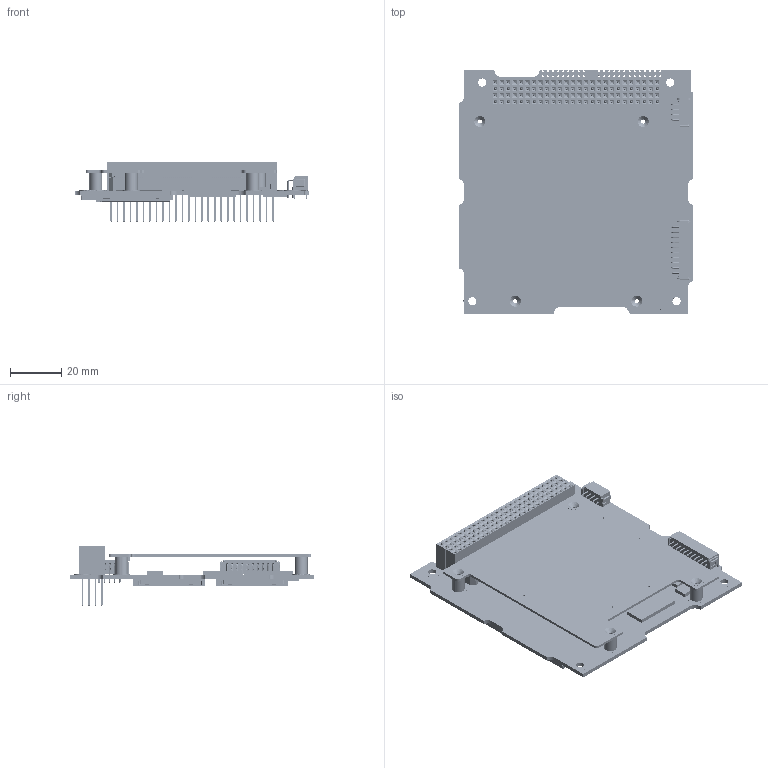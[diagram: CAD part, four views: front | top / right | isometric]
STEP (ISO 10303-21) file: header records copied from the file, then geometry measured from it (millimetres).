
FILE_DESCRIPTION((''),'2;1');
FILE_NAME('ISIS_IOBC_REVC_ASM','2017-05-12T',('jmig'),(''),'PRO/ENGINEER BY PARAMETRIC TECHNOLOGY CORPORATION, 2015110','PRO/ENGINEER BY PARAMETRIC TECHNOLOGY CORPORATION, 2015110','');
FILE_SCHEMA(('AUTOMOTIVE_DESIGN { 1 0 10303 214 1 1 1 1 }'));
Products named in the file (8): IOBC_MOTHERBOARD; ISIS_IOBC_DAUGHTERBOARD_ASM; SAMTEC-ESQ-126-39-G-D; SAMTEC-ESQ-126-38-G-D; SAMTEC-SSQ-126-21-G-D; SAMTEC-TSW-126-07-G-D; CSKB_CONNECTORS_ASM; ISIS_IOBC_REVC_ASM
Assembly tree (11 placements, depth 3):
  ISIS_IOBC_REVC_ASM
    IOBC_MOTHERBOARD
    ISIS_IOBC_DAUGHTERBOARD_ASM
    CSKB_CONNECTORS_ASM
      SAMTEC-ESQ-126-39-G-D  x2
      SAMTEC-ESQ-126-38-G-D  x2
      SAMTEC-SSQ-126-21-G-D  x2
      SAMTEC-TSW-126-07-G-D  x2
Bounding box: 92 x 96 x 23.24 mm (x, y, z)
Volume: 46580.9 mm3; surface area: 74788.4 mm2
Topology: 12 solids, 12 shells, 22982 faces, 61809 edges, 38691 vertices
Faces by surface type: plane 21042, cylinder 1330, bspline 271, cone 224, torus 96, sphere 17, extrusion 2
Entity records: 556080 total; most frequent: CARTESIAN_POINT 95829, ORIENTED_EDGE 83642, DIRECTION 75551, EDGE_CURVE 41821, VECTOR 37417, LINE 37415, VERTEX_POINT 26403, AXIS2_PLACEMENT_3D 19055
